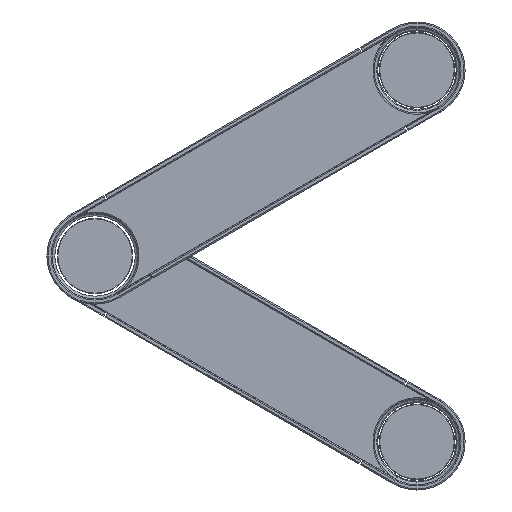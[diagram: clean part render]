
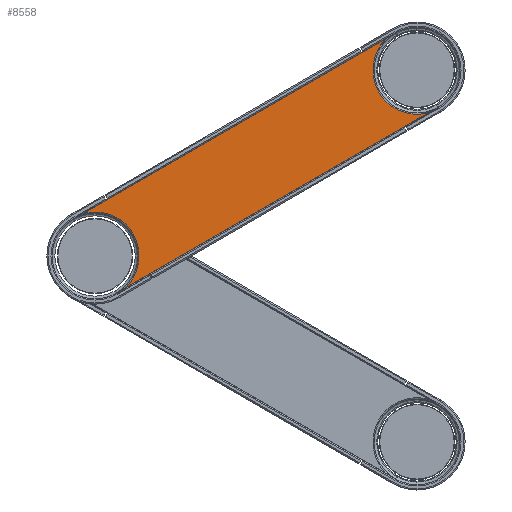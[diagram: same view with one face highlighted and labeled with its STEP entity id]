
A CAD part, front view. The second image highlights one B-rep face of the part: STEP entity #8558.
In plain terms, the highlighted planar face has unit normal (0, -1, 0).
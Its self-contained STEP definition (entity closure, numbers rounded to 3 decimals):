
#83 = DIRECTION ( 'NONE',  ( 0.5, 0., -0.866 ) ) ;
#264 = CARTESIAN_POINT ( 'NONE',  ( 42.724, -1124.082, 74. ) ) ;
#485 = VERTEX_POINT ( 'NONE', #8717 ) ;
#763 = CIRCLE ( 'NONE', #8022, 17.55 ) ;
#1042 = ORIENTED_EDGE ( 'NONE', *, *, #11275, .T. ) ;
#1933 = EDGE_CURVE ( 'NONE', #485, #8133, #11212, .T. ) ;
#2133 = AXIS2_PLACEMENT_3D ( 'NONE', #7480, #9622, #12471 ) ;
#2937 = CARTESIAN_POINT ( 'NONE',  ( -93.923, -1124.082, 14.679 ) ) ;
#3066 = CARTESIAN_POINT ( 'NONE',  ( 30.309, -1124.082, 86.404 ) ) ;
#3113 = ORIENTED_EDGE ( 'NONE', *, *, #10883, .T. ) ;
#3976 = DIRECTION ( 'NONE',  ( 0., -1., 0. ) ) ;
#3999 = ORIENTED_EDGE ( 'NONE', *, *, #1933, .T. ) ;
#4101 = DIRECTION ( 'NONE',  ( 0., 1., 0. ) ) ;
#4696 = LINE ( 'NONE', #10445, #8687 ) ;
#5715 = EDGE_CURVE ( 'NONE', #8293, #7851, #763, .T. ) ;
#6140 = PLANE ( 'NONE',  #8863 ) ;
#7480 = CARTESIAN_POINT ( 'NONE',  ( -85.448, -1124.082, 0. ) ) ;
#7676 = VECTOR ( 'NONE', #7728, 1000. ) ;
#7728 = DIRECTION ( 'NONE',  ( -0.866, 0., -0.5 ) ) ;
#7851 = VERTEX_POINT ( 'NONE', #3066 ) ;
#7953 = FACE_OUTER_BOUND ( 'NONE', #9987, .T. ) ;
#8022 = AXIS2_PLACEMENT_3D ( 'NONE', #264, #4101, #9663 ) ;
#8133 = VERTEX_POINT ( 'NONE', #9892 ) ;
#8293 = VERTEX_POINT ( 'NONE', #9247 ) ;
#8558 = ADVANCED_FACE ( 'NONE', ( #7953 ), #6140, .T. ) ;
#8687 = VECTOR ( 'NONE', #11269, 1000. ) ;
#8716 = CARTESIAN_POINT ( 'NONE',  ( -85.448, -1124.082, 0. ) ) ;
#8717 = CARTESIAN_POINT ( 'NONE',  ( -89.983, -1124.082, 16.954 ) ) ;
#8863 = AXIS2_PLACEMENT_3D ( 'NONE', #8716, #3976, #83 ) ;
#9247 = CARTESIAN_POINT ( 'NONE',  ( 47.259, -1124.082, 57.046 ) ) ;
#9622 = DIRECTION ( 'NONE',  ( 0., 1., 0. ) ) ;
#9663 = DIRECTION ( 'NONE',  ( -0.5, 0., 0.866 ) ) ;
#9892 = CARTESIAN_POINT ( 'NONE',  ( -73.033, -1124.082, -12.404 ) ) ;
#9987 = EDGE_LOOP ( 'NONE', ( #12261, #3113, #3999, #1042 ) ) ;
#10445 = CARTESIAN_POINT ( 'NONE',  ( 47.597, -1124.082, 57.241 ) ) ;
#10883 = EDGE_CURVE ( 'NONE', #7851, #485, #11534, .T. ) ;
#11212 = CIRCLE ( 'NONE', #2133, 17.55 ) ;
#11269 = DIRECTION ( 'NONE',  ( 0.866, 0., 0.5 ) ) ;
#11275 = EDGE_CURVE ( 'NONE', #8133, #8293, #4696, .T. ) ;
#11534 = LINE ( 'NONE', #2937, #7676 ) ;
#12261 = ORIENTED_EDGE ( 'NONE', *, *, #5715, .T. ) ;
#12471 = DIRECTION ( 'NONE',  ( -0.5, 0., 0.866 ) ) ;
